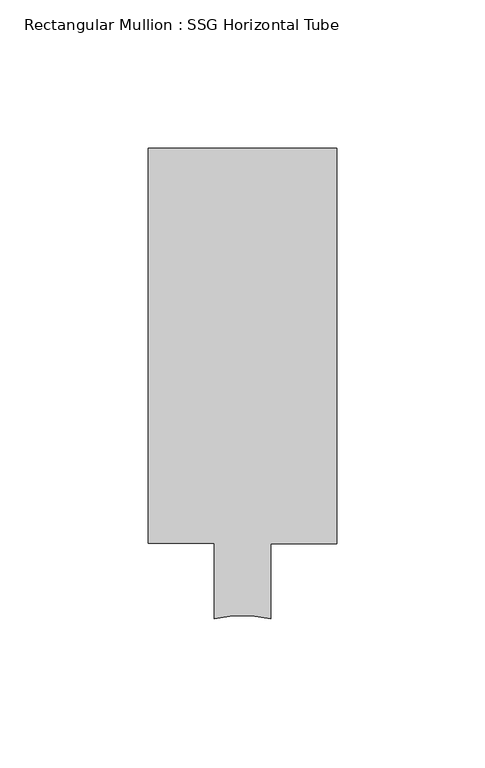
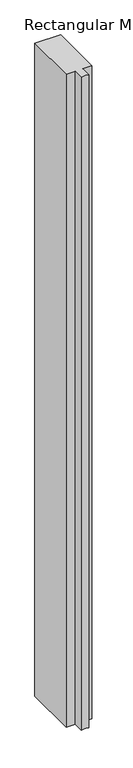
"""IFC4 building model written with IfcOpenShell, lengths in millimetres: member geometry, Rectangular Mullion : SSG Horizontal Tube."""

import ifcopenshell
import ifcopenshell.guid

model = None  # the IFC model being written
_history = None  # IfcOwnerHistory: only IFC2X3 demands one
_inside = {}  # id of a spatial element -> (the spatial element, [elements in it])
_under = {}  # id of a project, library or spatial element -> (it, [spatial elements below it])
_declared = {}  # id of a project -> (the project, [libraries it declares])
_typed = {}  # id of a type object -> (the type object, [elements of that type])
_made_of = {}  # id of a material, layer set ... -> (it, [elements and type objects made of it])


def new_model(schema):
    """Start an empty IFC model of exactly this schema.

    Asked for "IFC4X3", IfcOpenShell would pick the latest addendum, in which some entities
    have other attributes; the version numbers below select the first issue.
    IFC2X3 requires an IfcOwnerHistory on every rooted entity: one is made here for all.
    """
    global model, _history
    if schema == "IFC4X3":
        model = ifcopenshell.file(schema_version=(4, 3, 0, 0))
    else:
        model = ifcopenshell.file(schema=schema)
    _inside.clear()
    _under.clear()
    _declared.clear()
    _typed.clear()
    _made_of.clear()
    _history = None
    if model.schema == "IFC2X3":
        org = make("IfcOrganization", Name="unknown")
        user = make(
            "IfcPersonAndOrganization",
            ThePerson=make("IfcPerson", FamilyName="unknown"),
            TheOrganization=org,
        )
        app = make(
            "IfcApplication",
            ApplicationDeveloper=org,
            Version="unknown",
            ApplicationFullName="unknown",
            ApplicationIdentifier="unknown",
        )
        _history = make(
            "IfcOwnerHistory",
            OwningUser=user,
            OwningApplication=app,
            ChangeAction="ADDED",
            CreationDate=0,
        )
    return model


def make(cls, **values):
    """One entity of the class cls with the attributes given. An attribute that is None is left unset."""
    return model.create_entity(
        cls, **{name: value for name, value in values.items() if value is not None}
    )


def rooted(cls, **values):
    """An entity with a GlobalId (a new one), such as an element, a storey or a relation."""
    return make(cls, GlobalId=ifcopenshell.guid.new(), OwnerHistory=_history, **values)


def si_unit(unit_type, name, prefix=None):
    """IfcSIUnit, for example si_unit("LENGTHUNIT", "METRE", prefix="MILLI")."""
    return make("IfcSIUnit", UnitType=unit_type, Prefix=prefix, Name=name)


def assignment(units):
    """IfcUnitAssignment: the units of a project."""
    return None if units is None else make("IfcUnitAssignment", Units=units)


def point(xyz):
    """IfcCartesianPoint."""
    return None if xyz is None else make("IfcCartesianPoint", Coordinates=xyz)


def direction(xyz):
    """IfcDirection."""
    return None if xyz is None else make("IfcDirection", DirectionRatios=xyz)


def frame(location, z_axis=None, x_axis=None):
    """IfcAxis2Placement3D, a coordinate frame: its origin and axes. An axis left out is left unset."""
    return make(
        "IfcAxis2Placement3D",
        Location=point(location),
        Axis=direction(z_axis),
        RefDirection=direction(x_axis),
    )


def frame_2d(location, x_axis=None):
    """IfcAxis2Placement2D, a coordinate frame in the plane: its origin and x axis."""
    return make(
        "IfcAxis2Placement2D", Location=point(location), RefDirection=direction(x_axis)
    )


def origin():
    """The frame at (0, 0, 0) with its axes left unset."""
    return frame((0.0, 0.0, 0.0))


def place(relative_to, where):
    """IfcLocalPlacement: puts the frame where relative to a parent placement (None: the world)."""
    return make(
        "IfcLocalPlacement", PlacementRelTo=relative_to, RelativePlacement=where
    )


def context(
    kind, dimensions, precision=None, world=None, true_north=None, identifier=None
):
    """IfcGeometricRepresentationContext, for example the 3D "Model" context."""
    return make(
        "IfcGeometricRepresentationContext",
        ContextIdentifier=identifier,
        ContextType=kind,
        CoordinateSpaceDimension=dimensions,
        Precision=precision,
        WorldCoordinateSystem=world,
        TrueNorth=true_north,
    )


def project(units=None, contexts=None):
    """IfcProject with its units and contexts."""
    return rooted(
        "IfcProject",
        Name="project",
        RepresentationContexts=contexts,
        UnitsInContext=assignment(units),
    )


def spatial(cls, under=None, at=None, **own):
    """A site, building, storey or space (cls), placed at a placement, below another one or the project."""
    s = rooted(cls, ObjectPlacement=at, **own)
    if under is not None:
        _under.setdefault(under.id(), (under, []))[1].append(s)
    return s


def polyline(points):
    """IfcPolyline through the points."""
    return make("IfcPolyline", Points=[point(p) for p in points])


def circle_curve(where, radius):
    """IfcCircle in the frame where."""
    return make("IfcCircle", Position=where, Radius=radius)


def trimmed(basis, trim1, trim2, sense, master):
    """IfcTrimmedCurve: the piece of a basis curve between two trims."""
    return make(
        "IfcTrimmedCurve",
        BasisCurve=basis,
        Trim1=trim1,
        Trim2=trim2,
        SenseAgreement=sense,
        MasterRepresentation=master,
    )


def segment(curve, same_sense, transition):
    """IfcCompositeCurveSegment."""
    return make(
        "IfcCompositeCurveSegment",
        Transition=transition,
        SameSense=same_sense,
        ParentCurve=curve,
    )


def composite_curve(segments, self_intersect=None):
    """IfcCompositeCurve: segments joined end to end."""
    return make("IfcCompositeCurve", Segments=segments, SelfIntersect=self_intersect)


def outline(outer, holes=None, kind="AREA"):
    """IfcArbitraryClosedProfileDef: a profile drawn as a closed curve; with holes, ...WithVoids."""
    if holes is None:
        return make("IfcArbitraryClosedProfileDef", ProfileType=kind, OuterCurve=outer)
    return make(
        "IfcArbitraryProfileDefWithVoids",
        ProfileType=kind,
        OuterCurve=outer,
        InnerCurves=holes,
    )


def extrude(swept, where, along, depth):
    """IfcExtrudedAreaSolid: the profile swept, set in the frame where, extruded along a direction by depth."""
    return make(
        "IfcExtrudedAreaSolid",
        SweptArea=swept,
        Position=where,
        ExtrudedDirection=direction(along),
        Depth=depth,
    )


def shape(context_of_items, identifier, shape_type, items):
    """IfcShapeRepresentation: the items that make up one representation, for example the "Body"."""
    return make(
        "IfcShapeRepresentation",
        ContextOfItems=context_of_items,
        RepresentationIdentifier=identifier,
        RepresentationType=shape_type,
        Items=items,
    )


def source(mapping_origin, context_of_items, identifier, shape_type, items):
    """IfcRepresentationMap: a shape defined once, which mapped items show again and again."""
    return make(
        "IfcRepresentationMap",
        MappingOrigin=mapping_origin,
        MappedRepresentation=shape(context_of_items, identifier, shape_type, items),
    )


def transform(
    local_origin,
    x_axis=None,
    y_axis=None,
    z_axis=None,
    scale=None,
    scale2=None,
    scale3=None,
    uniform=True,
):
    """IfcCartesianTransformationOperator3D, or its non-uniform kind. x_axis, y_axis, z_axis: its Axis1, 2, 3."""
    if uniform:
        return make(
            "IfcCartesianTransformationOperator3D",
            Axis1=direction(x_axis),
            Axis2=direction(y_axis),
            LocalOrigin=point(local_origin),
            Scale=scale,
            Axis3=direction(z_axis),
        )
    return make(
        "IfcCartesianTransformationOperator3DnonUniform",
        Axis1=direction(x_axis),
        Axis2=direction(y_axis),
        LocalOrigin=point(local_origin),
        Scale=scale,
        Axis3=direction(z_axis),
        Scale2=scale2,
        Scale3=scale3,
    )


def mapped(mapping_source, mapping_target):
    """IfcMappedItem: shows the shape of a source again, moved by a transform."""
    return make(
        "IfcMappedItem", MappingSource=mapping_source, MappingTarget=mapping_target
    )


def made_of(thing, what):
    """Note that an element or type object is made of a material, layer set ...; save() writes the relation."""
    if what is not None:
        _made_of.setdefault(what.id(), (what, []))[1].append(thing)
    return thing


def element(
    cls,
    number,
    at=None,
    inside=None,
    cuts=None,
    type_object=None,
    material=None,
    context=None,
    identifier="Body",
    shape_type=None,
    held_by="IfcProductDefinitionShape",
    body=None,
    shapes=None,
    **own,
):
    """One element of the class cls, such as IfcWall. Its Tag is "e" and its number.

    at: its placement. inside: the storey or other place that contains it. cuts: it is an
    opening in that element (IfcRelVoidsElement). A single representation is given by context,
    identifier, shape_type and body (its items); several are given by shapes. held_by: the class
    of the entity that holds the representations. save() writes the other relations.
    """
    e = rooted(cls, Tag="e%d" % number, ObjectPlacement=at, **own)
    if body is not None:
        shapes = [shape(context, identifier, shape_type, body)]
    if shapes is not None:
        e.Representation = make(held_by, Representations=shapes)
    if inside is not None:
        _inside.setdefault(inside.id(), (inside, []))[1].append(e)
    if cuts is not None:
        rooted(
            "IfcRelVoidsElement", RelatingBuildingElement=cuts, RelatedOpeningElement=e
        )
    if type_object is not None:
        _typed.setdefault(type_object.id(), (type_object, []))[1].append(e)
    return made_of(e, material)


def aggregate(whole, parts):
    """IfcRelAggregates: a whole, such as a stair, and the parts it consists of."""
    return rooted("IfcRelAggregates", RelatingObject=whole, RelatedObjects=parts)


def save(model, path):
    """Write the relations noted so far, then the file.

    IfcRelAggregates (storeys below a building ...), IfcRelContainedInSpatialStructure (elements
    in a storey), IfcRelDefinesByType, IfcRelAssociatesMaterial and IfcRelDeclares: one each for
    every whole, place, type object, material and project.
    """
    for whole, parts in _under.values():
        aggregate(whole, parts)
    for where, things in _inside.values():
        rooted(
            "IfcRelContainedInSpatialStructure",
            RelatedElements=things,
            RelatingStructure=where,
        )
    for kind, things in _typed.values():
        rooted("IfcRelDefinesByType", RelatedObjects=things, RelatingType=kind)
    for what, things in _made_of.values():
        rooted("IfcRelAssociatesMaterial", RelatedObjects=things, RelatingMaterial=what)
    for by, libraries in _declared.values():
        rooted("IfcRelDeclares", RelatingContext=by, RelatedDefinitions=libraries)
    model.write(path)


def rectangular_mullion_ssg_horizontal_tube_1dac9a05(model_context):
    return source(origin(), model_context, "Body", "SweptSolid", [
        extrude(outline(composite_curve([segment(polyline([(31.7705663, 114.3), (31.7705663, -19.05), (9.5552592, -19.05), (9.5552592, -44.4572901)]), True, "CONTINUOUS"), segment(trimmed(circle_curve(frame_2d((0.020565, -81.9595202)), 38.6953183), [point((9.5552592, -44.4572901))], [point((-9.4947442, -44.4523669))], True, "CARTESIAN"), True, "CONTINUOUS"), segment(polyline([(-9.4947442, -44.4523669), (-9.4947442, -18.9488461), (-31.75, -18.9488461), (-31.75, 114.3), (31.7705663, 114.3)]), True, "CONTINUOUS")], self_intersect=False)), frame((0.0, 0.0, -1704.9898159), z_axis=(0.0, 0.0, 1.0), x_axis=(1.0, 0.0, 0.0)), (0.0, 0.0, 1.0), 1704.9898159),
    ])


if __name__ == "__main__":
    model = new_model("IFC4")
    model_context = context("Model", 3, world=origin())
    ifc_project = project(units=[si_unit("LENGTHUNIT", "METRE", prefix="MILLI")], contexts=[model_context])
    site = spatial("IfcSite", under=ifc_project)
    building = spatial("IfcBuilding", under=site)
    placement = place(None, origin())
    rectangular_mullion_ssg_horizontal_tube_shape = rectangular_mullion_ssg_horizontal_tube_1dac9a05(model_context)
    element("IfcMember", 1, ObjectType="Rectangular Mullion : SSG Horizontal Tube", at=placement, inside=building, context=model_context, shape_type="MappedRepresentation", body=[
        mapped(rectangular_mullion_ssg_horizontal_tube_shape, transform((0.0, 0.0, 0.0), x_axis=(1.0, 0.0, 0.0), y_axis=(0.0, 1.0, 0.0), z_axis=(0.0, 0.0, 1.0))),
    ])
    save(model, "model.ifc")
